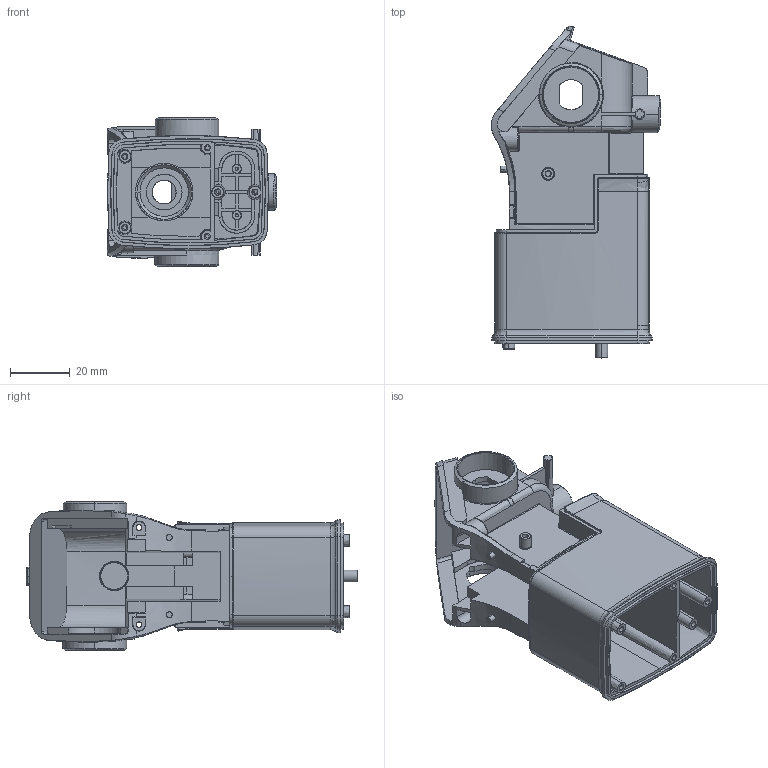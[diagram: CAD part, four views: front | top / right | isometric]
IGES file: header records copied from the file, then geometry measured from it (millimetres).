
Start section: SolidWorks IGES file using analytic representation for surfaces
Global section: file name: W:\PROJECTS\Vandagraph - Oxygen Analyser\Info Out\May-8-07 Modifed Caises-Final CAD\internal chaises_8.IGS; native system: SolidWorks 2007; preprocessor: SolidWorks 2007; author: dan; date: 070508.085134; units: millimetre
Bounding box: 56.91 x 111.54 x 50.08 mm (x, y, z)
Surface area: 43293.3 mm2 (no closed solid volume)
Topology: 0 solids, 0 shells, 737 faces, 7555 edges, 7536 vertices
Faces by surface type: bspline 425, revolution 312
